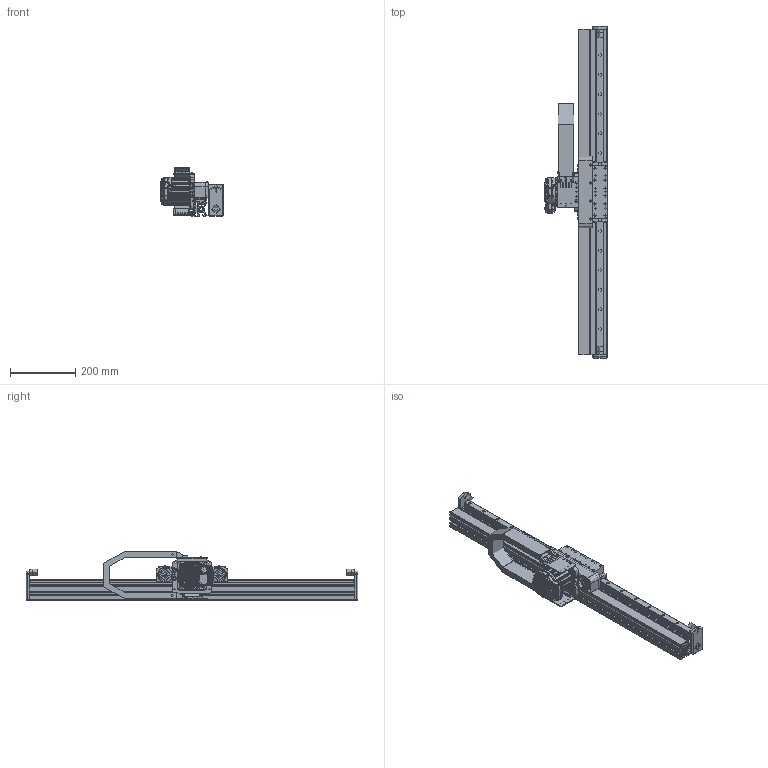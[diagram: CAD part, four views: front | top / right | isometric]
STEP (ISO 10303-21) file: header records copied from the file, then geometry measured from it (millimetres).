
FILE_DESCRIPTION( ( '' ), ' ' );
FILE_NAME( '/vol/tmp/translate-10641162214461743308/5c7ea71a8114d517143092db.step', '2019-03-05T16:43:13', ( '' ), ( '' ), ' ', ' ', ' ' );
FILE_SCHEMA( ( 'AUTOMOTIVE_DESIGN { 1 0 10303 214 1 1 1 1 }' ) );
Length unit declared in the file: metre
Products named in the file (87): TRAY FASTENERS <5>; #7993; #8001; RAIL FASTENERS <17>; 100001-8065 M5-.80 X 25 ALLOY SHCS; 20mm BEARING RAIL CAP; 102684-001 BOSCH 10mm T-BLOCK M5; RAIL FASTENERS <10>; RAIL FASTENERS <6>; RAIL FASTENERS <13>; RAIL FASTENERS <4>; RAIL FASTENERS <2>; TRAY FASTENERS <4>; RAIL FASTENERS <9>; RAIL FASTENERS <3>; TRAY FASTENERS <1>; RAIL FASTENERS <7>; RAIL FASTENERS <5>; RAIL FASTENERS <12>; RAIL FASTENERS <16>; RAIL FASTENERS <1>; RAIL FASTENERS <11>; TRAY FASTENERS <3>; TRAY FASTENERS <2>; RAIL FASTENERS <14>; RAIL FASTENERS <8>; RAIL FASTENERS <15>; 104587-001 SBL-M DYNAMIC BEARING ASSEMBLY <2>; 102638-005 5202 SHIELDED DOUBLE ROW BALL BEARING; 103126-001 SBL-M BEARING SHAFT; 104587-001 SBL-M DYNAMIC BEARING ASSEMBLY <1>; TRAY <1>; 102567-001 T5 X 32mm BELTING; 102610-005 VHB TAPE 1-1/4 WIDE; 102656-1000 SBL-M BELT TRAY; CPM34XX & PINION <1>; 100013-008 M4 X 6 SS SET SCREW; GENERIC CPM 342X; 102695-001 SERVOBELT PINION GEAR 15T .500 BORE; RAIL <1>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
Assembly tree (200 placements, depth 5):
  Assem1
    102977-001 LINKS
    107170-001 SBL-M-LT DRIVE BLOCK ASSEMBLY WITH COVER <1>
      100081-015 0.07 W X 0.551 ID BUN-N O-RING  x6
      100003-048 M8 SS FENDER WASHER  x2
      100021-061 RADIAL BEARING 6302ZZ  x4
      103757-100 T5 BELT 100T X 32 WIDE
      100001-068 M5-.80 X 40 SS SHCS  x4
      105446-001 SBL-M LOOPTRACK BELT COVER
      102653-002 BEARING SPACER  x2
      100006-013 M8 X 12 SS BHCS  x2
      105323-001 KEY 4mm SQUARE X 16mm LONG
      100006-004 M4-.70 X 8 SS BHCS  x4
      105427-001 SBL-M-LT DRIVE MOUNT
      100001-061 M5-.80 X 12 SS SHCS  x2
      104587-001 SBL-M DYNAMIC BEARING ASSEMBLY <2>
        102638-005 5202 SHIELDED DOUBLE ROW BALL BEARING  x2
        103126-001 SBL-M BEARING SHAFT
      104587-001 SBL-M DYNAMIC BEARING ASSEMBLY <1>
        102638-005 5202 SHIELDED DOUBLE ROW BALL BEARING  x2
        103126-001 SBL-M BEARING SHAFT
    1000 CHASSIS <1>
      102576-1000 45-SERIES PROFILE 45X90H
      RAIL <1>
        106888-001 20mm RAIL COVER
        102732-990 20mm STANDARD GUIDE RAIL
        RAIL FASTENERS <5>
          100001-8065 M5-.80 X 25 ALLOY SHCS
          20mm BEARING RAIL CAP
          102684-001 BOSCH 10mm T-BLOCK M5
        RAIL FASTENERS <13>
          102684-001 BOSCH 10mm T-BLOCK M5
          20mm BEARING RAIL CAP
          100001-8065 M5-.80 X 25 ALLOY SHCS
        RAIL FASTENERS <14>
          100001-8065 M5-.80 X 25 ALLOY SHCS
          102684-001 BOSCH 10mm T-BLOCK M5
          20mm BEARING RAIL CAP
        RAIL FASTENERS <8>
          20mm BEARING RAIL CAP
          102684-001 BOSCH 10mm T-BLOCK M5
          100001-8065 M5-.80 X 25 ALLOY SHCS
        RAIL FASTENERS <6>
          100001-8065 M5-.80 X 25 ALLOY SHCS
          20mm BEARING RAIL CAP
          102684-001 BOSCH 10mm T-BLOCK M5
        RAIL FASTENERS <15>
          100001-8065 M5-.80 X 25 ALLOY SHCS
          102684-001 BOSCH 10mm T-BLOCK M5
          20mm BEARING RAIL CAP
        RAIL FASTENERS <7>
          102684-001 BOSCH 10mm T-BLOCK M5
          100001-8065 M5-.80 X 25 ALLOY SHCS
          20mm BEARING RAIL CAP
        RAIL FASTENERS <16>
          102684-001 BOSCH 10mm T-BLOCK M5
          20mm BEARING RAIL CAP
          100001-8065 M5-.80 X 25 ALLOY SHCS
        RAIL FASTENERS <1>
          100001-8065 M5-.80 X 25 ALLOY SHCS
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Bounding box: 192.42 x 1019.05 x 150.3 mm (x, y, z)
Topology: 189 solids, 194 shells, 8592 faces, 21924 edges, 13801 vertices
Faces by surface type: plane 3448, cylinder 2340, bspline 1034, torus 912, cone 662, sphere 154, extrusion 40, revolution 2
Full cylindrical faces by diameter (mm): 0.152 x1, 2.2 x31, 2.261 x25, 2.44 x25, 2.47 x4, 2.5 x24, 2.6 x4, 2.66 x4, 2.997 x4, 3 x12, 3.175 x1, 3.184 x1, 3.2 x4, 3.3 x9, 3.4 x2, 3.454 x5, 4 x6, 4.166 x5, 4.2 x13, 4.216 x8, 4.5 x7, 4.8 x4, 5 x43, 5.004 x35, 5.105 x2, 5.156 x5, 5.284 x1, 5.5 x35, 5.563 x12, 5.6 x4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
Entity records: 352836 total; most frequent: CARTESIAN_POINT 139826, ORIENTED_EDGE 32688, DIRECTION 32156, EDGE_CURVE 16344, AXIS2_PLACEMENT_3D 12699, VERTEX_POINT 10785, EDGE_LOOP 8342, FACE_OUTER_BOUND 7574
